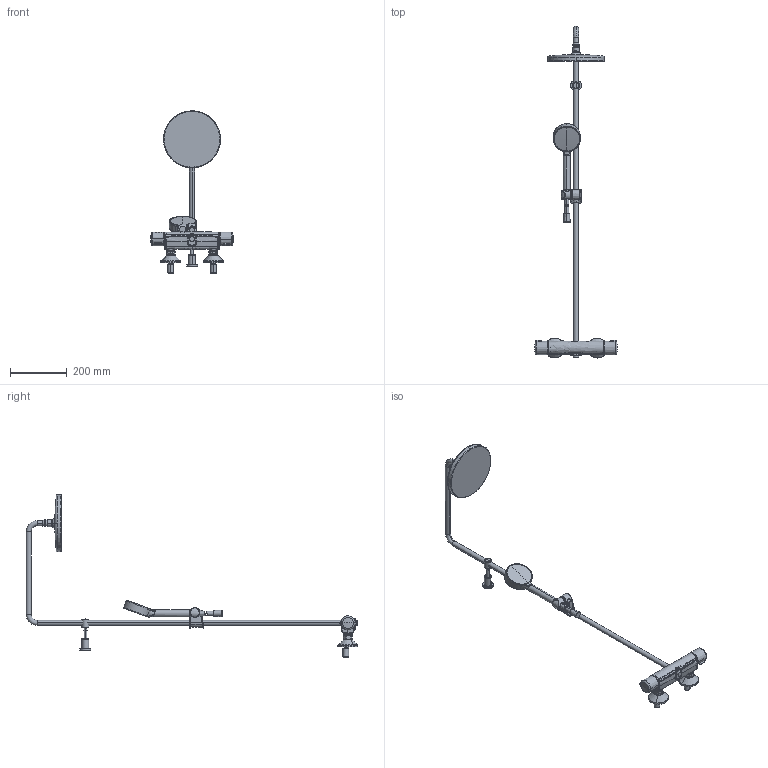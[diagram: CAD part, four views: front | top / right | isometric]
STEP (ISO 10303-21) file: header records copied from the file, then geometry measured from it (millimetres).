
FILE_DESCRIPTION (( 'STEP AP203' ), '1' );
FILE_NAME ('7402U-33(2020).STEP', '2020-12-01T15:11:19', ( '' ), ( '' ), 'SwSTEP 2.0', 'SolidWorks 2016', '' );
FILE_SCHEMA (( 'CONFIG_CONTROL_DESIGN' ));
Products named in the file (1): 7402U-33(2020)
Bounding box: 289.92 x 1165.16 x 570.2 mm (x, y, z)
Volume: 1877169.5 mm3; surface area: 405049 mm2
Topology: 27 solids, 33 shells, 941 faces, 2169 edges, 1299 vertices
Faces by surface type: bspline 332, cylinder 225, plane 143, cone 101, torus 100, sphere 40
Entity records: 68133 total; most frequent: CARTESIAN_POINT 49731, ORIENTED_EDGE 4300, DIRECTION 3148, EDGE_CURVE 2150, AXIS2_PLACEMENT_3D 1389, VERTEX_POINT 1297, EDGE_LOOP 965, ADVANCED_FACE 941
